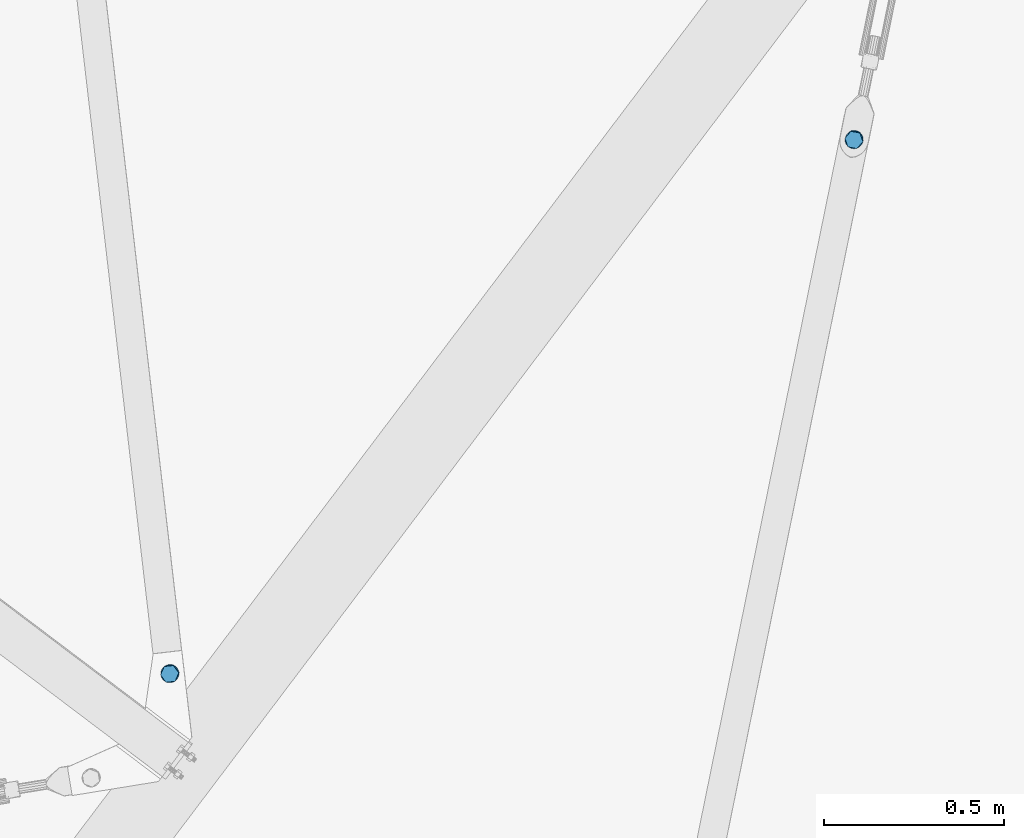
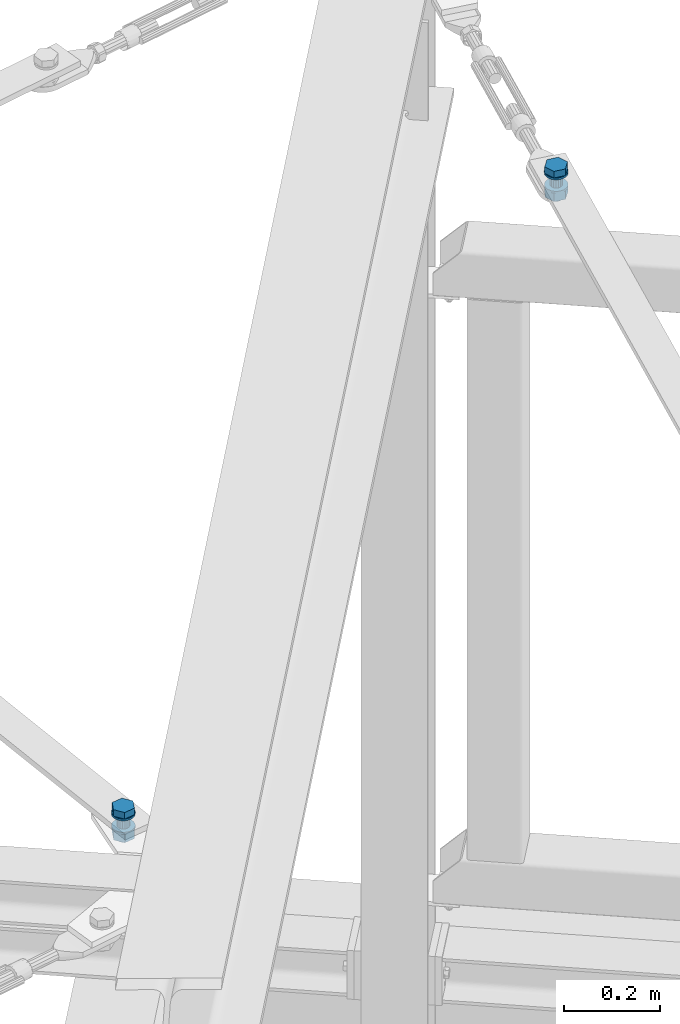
# One storey, part 225 of 476: 2 mechanical fasteners.
"""IFC2X3 building model written with IfcOpenShell, lengths in millimetres."""

from ifc_helpers import new_model, entity, si_unit, converted_unit, origin_with_axes, place, context, project, spatial, faceted_brep, element, save


model = new_model("IFC2X3")

# Units and contexts
model_context = context("Model", 3, precision=1e-09, world=origin_with_axes())
ifc_project = project(units=[si_unit("LENGTHUNIT", "METRE", prefix="MILLI"), si_unit("AREAUNIT", "SQUARE_METRE"), si_unit("VOLUMEUNIT", "CUBIC_METRE"), converted_unit("PLANEANGLEUNIT", "DEGREE", entity("IfcPlaneAngleMeasure", 0.01745329), si_unit("PLANEANGLEUNIT", "RADIAN"), dimensions=[0, 0, 0, 0, 0, 0, 0])], contexts=[model_context])

# Site, building, storey
site_placement = place(None, origin_with_axes())
site = spatial("IfcSite", under=ifc_project, at=site_placement, Name="mKR Teilneubau & Sanierung BA1 - Ostfildern", CompositionType="ELEMENT")
building_placement = place(site_placement, origin_with_axes())
building = spatial("IfcBuilding", under=site, at=building_placement, Name="Struktur 1", CompositionType="ELEMENT")
storey_placement = place(building_placement, origin_with_axes())
storey = spatial("IfcBuildingStorey", under=building, at=storey_placement, Name="Default Storey", CompositionType="ELEMENT", Elevation=0.0)

# Mechanical fasteners
mechanical_fastener_1_placement = place(None, origin_with_axes())
element("IfcMechanicalFastener", 1, at=mechanical_fastener_1_placement, inside=storey, ObjectType="-", NominalDiameter=27.0, NominalLength=70.0, context=model_context, shape_type="Brep", body=[
    faceted_brep([(10982.519814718, 8010.30238381, 5615.049255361), (10982.429310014, 8010.18251923, 5620.04699899), (10977.724341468, 8011.553260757, 5619.99467169), (10977.814846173, 8011.673125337, 5614.996928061), (10973.376830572, 8013.815328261, 5619.970194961), (10973.467335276, 8013.935192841, 5614.972451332), (10969.553849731, 8016.881791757, 5619.97450943), (10969.644354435, 8017.001656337, 5614.976765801), (10966.402313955, 8020.634808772, 5620.007449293), (10966.492818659, 8020.754673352, 5615.009705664), (10964.043334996, 8024.930152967, 5620.067748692), (10964.133839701, 8025.050017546, 5615.070005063), (10962.567567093, 8029.602756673, 5620.153090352), (10962.658071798, 8029.722621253, 5615.155346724), (10962.031723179, 8034.47305435, 5620.260194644), (10962.122227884, 8034.59291893, 5615.262451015), (10962.456395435, 8039.35388319, 5620.384945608), (10962.546900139, 8039.47374777, 5615.387201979), (10963.825263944, 8044.057675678, 5620.522549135), (10963.915768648, 8044.177540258, 5615.524805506), (10966.085723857, 8048.403667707, 5620.667717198), (10966.176228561, 8048.523532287, 5615.669973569), (10969.150906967, 8052.224845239, 5620.814871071), (10969.241411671, 8052.344709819, 5615.817127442), (10972.903020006, 8055.374362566, 5620.958355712), (10972.993524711, 8055.494227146, 5615.960612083), (10977.197871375, 8057.731185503, 5621.092657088), (10977.28837608, 8057.851050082, 5616.094913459), (10981.870412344, 8059.204742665, 5621.212614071), (10981.960917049, 8059.324607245, 5616.214870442), (10986.741079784, 8059.738406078, 5621.313616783), (10986.831584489, 8059.858270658, 5616.315873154), (10991.622696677, 8059.311667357, 5621.391783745), (10991.713201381, 8059.431531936, 5616.394040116), (10996.327665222, 8057.940925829, 5621.444111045), (10996.418169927, 8058.060790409, 5616.446367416), (11000.675176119, 8055.678858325, 5621.468587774), (11000.765680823, 8055.798722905, 5616.470844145), (11004.49815696, 8052.61239483, 5621.464273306), (11004.588661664, 8052.732259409, 5616.466529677), (11007.649692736, 8048.859377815, 5621.431333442), (11007.74019744, 8048.979242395, 5616.433589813), (11010.008671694, 8044.56403362, 5621.371034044), (11010.099176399, 8044.6838982, 5616.373290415), (11011.484439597, 8039.891429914, 5621.285692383), (11011.574944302, 8040.011294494, 5616.287948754), (11012.020283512, 8035.021132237, 5621.178588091), (11012.110788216, 8035.140996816, 5616.180844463), (11011.595611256, 8030.140303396, 5621.053837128), (11011.68611596, 8030.260167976, 5616.056093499), (11010.226742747, 8025.436510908, 5620.916233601), (11010.317247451, 8025.556375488, 5615.918489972), (11007.966282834, 8021.09051888, 5620.771065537), (11008.056787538, 8021.21038346, 5615.773321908), (11004.901099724, 8017.269341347, 5620.623911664), (11004.991604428, 8017.389205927, 5615.626168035), (11001.148986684, 8014.119824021, 5620.480427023), (11001.239491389, 8014.2396886, 5615.482683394), (10996.854135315, 8011.763001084, 5620.346125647), (10996.94464002, 8011.882865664, 5615.348382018), (10992.181594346, 8010.289443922, 5620.226168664), (10992.272099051, 8010.409308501, 5615.228425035), (10987.310926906, 8009.755780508, 5620.125165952), (10987.401431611, 8009.875645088, 5615.127422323)], [[[0, 1, 2, 3]], [[3, 2, 4, 5]], [[5, 4, 6, 7]], [[7, 6, 8, 9]], [[9, 8, 10, 11]], [[11, 10, 12, 13]], [[13, 12, 14, 15]], [[15, 14, 16, 17]], [[17, 16, 18, 19]], [[19, 18, 20, 21]], [[21, 20, 22, 23]], [[23, 22, 24, 25]], [[25, 24, 26, 27]], [[27, 26, 28, 29]], [[29, 28, 30, 31]], [[31, 30, 32, 33]], [[33, 32, 34, 35]], [[35, 34, 36, 37]], [[37, 36, 38, 39]], [[39, 38, 40, 41]], [[41, 40, 42, 43]], [[43, 42, 44, 45]], [[45, 44, 46, 47]], [[47, 46, 48, 49]], [[49, 48, 50, 51]], [[51, 50, 52, 53]], [[53, 52, 54, 55]], [[55, 54, 56, 57]], [[57, 56, 58, 59]], [[59, 58, 60, 61]], [[61, 60, 62, 63]], [[63, 62, 1, 0]], [[2, 1, 62, 60, 58, 56, 54, 52, 50, 48, 46, 44, 42, 40, 38, 36, 34, 32, 30, 28, 26, 24, 22, 20, 18, 16, 14, 12, 10, 8, 6, 4]], [[63, 0, 3, 5, 7, 9, 11, 13, 15, 17, 19, 21, 23, 25, 27, 29, 31, 33, 35, 37, 39, 41, 43, 45, 47, 49, 51, 53, 55, 57, 59, 61]]]),
    faceted_brep([(10978.273169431, 8058.317301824, 5638.133862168), (10978.580885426, 8058.724841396, 5621.14153383), (10962.0387121, 8039.432198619, 5620.37926003), (10961.730996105, 8039.024659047, 5637.371588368), (10970.48383002, 8015.454450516, 5619.957117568), (10970.176114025, 8015.046910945, 5636.949445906), (10995.471121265, 8010.769345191, 5620.297248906), (10995.16340527, 8010.36180562, 5637.289577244), (11012.01329459, 8030.061987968, 5621.059522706), (11011.705578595, 8029.654448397, 5638.051851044), (11003.568176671, 8054.039736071, 5621.481665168), (11003.260460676, 8053.632196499, 5638.473993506)], [[[0, 1, 2, 3]], [[3, 2, 4, 5]], [[5, 4, 6, 7]], [[7, 6, 8, 9]], [[9, 8, 10, 11]], [[11, 10, 1, 0]], [[3, 5, 7, 9, 11, 0]], [[2, 1, 10, 8, 6, 4]]]),
    faceted_brep([(10985.177322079, 8022.321275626, 5585.372082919), (10984.634299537, 8021.602095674, 5615.358230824), (10979.745960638, 8023.563812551, 5615.316756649), (10980.288983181, 8024.282992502, 5585.330608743), (10975.979721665, 8027.246332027, 5615.336873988), (10976.522744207, 8027.965511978, 5585.350726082), (10973.90895836, 8032.089023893, 5615.41552016), (10974.451980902, 8032.808203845, 5585.429372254), (10973.848925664, 8037.354632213, 5615.540721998), (10974.391948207, 8038.073812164, 5585.554574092), (10975.808763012, 8042.241515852, 5615.693418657), (10976.351785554, 8042.960695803, 5585.707270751), (10979.490102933, 8046.005691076, 5615.850363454), (10980.033125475, 8046.724871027, 5585.864215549), (10984.332494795, 8048.074096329, 5615.987662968), (10984.875517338, 8048.79327628, 5586.001515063), (10989.598728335, 8048.131835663, 5616.084414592), (10990.141750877, 8048.851015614, 5586.098266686), (10994.487067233, 8046.170118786, 5616.125888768), (10995.030089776, 8046.889298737, 5586.139740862), (10998.253306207, 8042.48759931, 5616.105771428), (10998.796328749, 8043.206779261, 5586.119623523), (11000.324069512, 8037.644907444, 5616.027125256), (11000.867092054, 8038.364087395, 5586.040977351), (11000.384102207, 8032.379299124, 5615.901923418), (11000.92712475, 8033.098479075, 5585.915775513), (10998.42426486, 8027.492415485, 5615.74922676), (10998.967287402, 8028.211595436, 5585.763078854), (10994.742924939, 8023.728240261, 5615.592281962), (10995.285947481, 8024.447420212, 5585.606134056), (10989.900533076, 8021.659835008, 5615.454982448), (10990.443555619, 8022.379014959, 5585.468834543)], [[[0, 1, 2, 3]], [[3, 2, 4, 5]], [[5, 4, 6, 7]], [[7, 6, 8, 9]], [[9, 8, 10, 11]], [[11, 10, 12, 13]], [[13, 12, 14, 15]], [[15, 14, 16, 17]], [[17, 16, 18, 19]], [[19, 18, 20, 21]], [[21, 20, 22, 23]], [[23, 22, 24, 25]], [[25, 24, 26, 27]], [[27, 26, 28, 29]], [[29, 28, 30, 31]], [[31, 30, 1, 0]], [[2, 1, 30, 28, 26, 24, 22, 20, 18, 16, 14, 12, 10, 8, 6, 4]], [[31, 0, 3, 5, 7, 9, 11, 13, 15, 17, 19, 21, 23, 25, 27, 29]]]),
    faceted_brep([(10983.153347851, 8011.141436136, 5580.065038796), (10983.062843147, 8011.021571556, 5585.062782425), (10978.357874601, 8012.392313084, 5585.010455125), (10978.448379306, 8012.512177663, 5580.012711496), (10974.010363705, 8014.654380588, 5584.985978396), (10974.100868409, 8014.774245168, 5579.988234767), (10970.187382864, 8017.720844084, 5584.990292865), (10970.277887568, 8017.840708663, 5579.992549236), (10967.035847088, 8021.473861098, 5585.023232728), (10967.126351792, 8021.593725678, 5580.025489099), (10964.676868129, 8025.769205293, 5585.083532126), (10964.767372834, 8025.889069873, 5580.085788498), (10963.201100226, 8030.441808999, 5585.168873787), (10963.291604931, 8030.561673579, 5580.171130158), (10962.665256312, 8035.312106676, 5585.275978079), (10962.755761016, 8035.431971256, 5580.27823445), (10963.089928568, 8040.192935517, 5585.400729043), (10963.180433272, 8040.312800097, 5580.402985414), (10964.458797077, 8044.896728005, 5585.538332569), (10964.549301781, 8045.016592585, 5580.54058894), (10966.71925699, 8049.242720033, 5585.683500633), (10966.809761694, 8049.362584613, 5580.685757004), (10969.7844401, 8053.063897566, 5585.830654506), (10969.874944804, 8053.183762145, 5580.832910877), (10973.536553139, 8056.213414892, 5585.974139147), (10973.627057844, 8056.333279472, 5580.976395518), (10977.831404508, 8058.570237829, 5586.108440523), (10977.921909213, 8058.690102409, 5581.110696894), (10982.503945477, 8060.043794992, 5586.228397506), (10982.594450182, 8060.163659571, 5581.230653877), (10987.374612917, 8060.577458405, 5586.329400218), (10987.465117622, 8060.697322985, 5581.331656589), (10992.25622981, 8060.150719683, 5586.40756718), (10992.346734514, 8060.270584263, 5581.409823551), (10996.961198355, 8058.779978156, 5586.45989448), (10997.05170306, 8058.899842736, 5581.462150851), (11001.308709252, 8056.517910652, 5586.484371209), (11001.399213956, 8056.637775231, 5581.48662758), (11005.131690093, 8053.451447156, 5586.480056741), (11005.222194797, 8053.571311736, 5581.482313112), (11008.283225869, 8049.698430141, 5586.447116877), (11008.373730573, 8049.818294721, 5581.449373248), (11010.642204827, 8045.403085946, 5586.386817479), (11010.732709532, 8045.522950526, 5581.38907385), (11012.11797273, 8040.73048224, 5586.301475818), (11012.208477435, 8040.85034682, 5581.303732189), (11012.653816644, 8035.860184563, 5586.194371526), (11012.744321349, 8035.980049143, 5581.196627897), (11012.229144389, 8030.979355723, 5586.069620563), (11012.319649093, 8031.099220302, 5581.071876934), (11010.86027588, 8026.275563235, 5585.932017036), (11010.950780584, 8026.395427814, 5580.934273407), (11008.599815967, 8021.929571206, 5585.786848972), (11008.690320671, 8022.049435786, 5580.789105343), (11005.534632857, 8018.108393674, 5585.639695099), (11005.625137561, 8018.228258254, 5580.64195147), (11001.782519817, 8014.958876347, 5585.496210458), (11001.873024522, 8015.078740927, 5580.498466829), (10997.487668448, 8012.60205341, 5585.361909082), (10997.578173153, 8012.72191799, 5580.364165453), (10992.815127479, 8011.128496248, 5585.241952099), (10992.905632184, 8011.248360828, 5580.24420847), (10987.944460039, 8010.594832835, 5585.140949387), (10988.034964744, 8010.714697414, 5580.143205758)], [[[0, 1, 2, 3]], [[3, 2, 4, 5]], [[5, 4, 6, 7]], [[7, 6, 8, 9]], [[9, 8, 10, 11]], [[11, 10, 12, 13]], [[13, 12, 14, 15]], [[15, 14, 16, 17]], [[17, 16, 18, 19]], [[19, 18, 20, 21]], [[21, 20, 22, 23]], [[23, 22, 24, 25]], [[25, 24, 26, 27]], [[27, 26, 28, 29]], [[29, 28, 30, 31]], [[31, 30, 32, 33]], [[33, 32, 34, 35]], [[35, 34, 36, 37]], [[37, 36, 38, 39]], [[39, 38, 40, 41]], [[41, 40, 42, 43]], [[43, 42, 44, 45]], [[45, 44, 46, 47]], [[47, 46, 48, 49]], [[49, 48, 50, 51]], [[51, 50, 52, 53]], [[53, 52, 54, 55]], [[55, 54, 56, 57]], [[57, 56, 58, 59]], [[59, 58, 60, 61]], [[61, 60, 62, 63]], [[63, 62, 1, 0]], [[2, 1, 62, 60, 58, 56, 54, 52, 50, 48, 46, 44, 42, 40, 38, 36, 34, 32, 30, 28, 26, 24, 22, 20, 18, 16, 14, 12, 10, 8, 6, 4]], [[63, 0, 3, 5, 7, 9, 11, 13, 15, 17, 19, 21, 23, 25, 27, 29, 31, 33, 35, 37, 39, 41, 43, 45, 47, 49, 51, 53, 55, 57, 59, 61]]]),
    faceted_brep([(10979.280011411, 8059.754489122, 5581.160818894), (10979.67823211, 8060.281893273, 5559.170746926), (10963.087261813, 8040.932340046, 5558.406224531), (10962.689041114, 8040.404935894, 5580.396296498), (10971.557291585, 8016.883861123, 5557.982836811), (10971.159070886, 8016.356456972, 5579.972908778), (10996.618291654, 8012.184935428, 5558.323971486), (10996.220070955, 8011.657531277, 5580.314043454), (11013.209261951, 8031.534488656, 5559.088493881), (11012.811041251, 8031.007084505, 5581.078565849), (11004.739232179, 8055.582967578, 5559.511881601), (11004.34101148, 8055.055563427, 5581.501953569)], [[[0, 1, 2, 3]], [[3, 2, 4, 5]], [[5, 4, 6, 7]], [[7, 6, 8, 9]], [[9, 8, 10, 11]], [[11, 10, 1, 0]], [[3, 5, 7, 9, 11, 0]], [[2, 1, 10, 8, 6, 4]]]),
    faceted_brep([(10985.810854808, 8023.160327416, 5550.387888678), (10985.666041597, 8022.968536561, 5558.384592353), (10980.777702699, 8024.930253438, 5558.343118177), (10980.922515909, 8025.122044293, 5550.346414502), (10977.011463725, 8028.612772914, 5558.363235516), (10977.156276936, 8028.804563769, 5550.366531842), (10974.94070042, 8033.45546478, 5558.441881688), (10975.085513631, 8033.647255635, 5550.445178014), (10974.880667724, 8038.7210731, 5558.567083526), (10975.025480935, 8038.912863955, 5550.570379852), (10976.840505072, 8043.607956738, 5558.719780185), (10976.985318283, 8043.799747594, 5550.72307651), (10980.521844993, 8047.372131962, 5558.876724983), (10980.666658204, 8047.563922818, 5550.880021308), (10985.364236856, 8049.440537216, 5559.014024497), (10985.509050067, 8049.632328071, 5551.017320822), (10990.630470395, 8049.498276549, 5559.11077612), (10990.775283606, 8049.690067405, 5551.114072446), (10995.518809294, 8047.536559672, 5559.152250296), (10995.663622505, 8047.728350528, 5551.155546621), (10999.285048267, 8043.854040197, 5559.132132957), (10999.429861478, 8044.045831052, 5551.135429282), (11001.355811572, 8039.01134833, 5559.053486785), (11001.500624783, 8039.203139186, 5551.05678311), (11001.415844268, 8033.745740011, 5558.928284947), (11001.560657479, 8033.937530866, 5550.931581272), (10999.45600692, 8028.858856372, 5558.775588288), (10999.600820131, 8029.050647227, 5550.778884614), (10995.774666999, 8025.094681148, 5558.61864349), (10995.91948021, 8025.286472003, 5550.621939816), (10990.932275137, 8023.026275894, 5558.481343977), (10991.077088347, 8023.21806675, 5550.484640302)], [[[0, 1, 2, 3]], [[3, 2, 4, 5]], [[5, 4, 6, 7]], [[7, 6, 8, 9]], [[9, 8, 10, 11]], [[11, 10, 12, 13]], [[13, 12, 14, 15]], [[15, 14, 16, 17]], [[17, 16, 18, 19]], [[19, 18, 20, 21]], [[21, 20, 22, 23]], [[23, 22, 24, 25]], [[25, 24, 26, 27]], [[27, 26, 28, 29]], [[29, 28, 30, 31]], [[31, 30, 1, 0]], [[2, 1, 30, 28, 26, 24, 22, 20, 18, 16, 14, 12, 10, 8, 6, 4]], [[31, 0, 3, 5, 7, 9, 11, 13, 15, 17, 19, 21, 23, 25, 27, 29]]]),
])
mechanical_fastener_2_placement = place(None, origin_with_axes())
element("IfcMechanicalFastener", 2, at=mechanical_fastener_2_placement, inside=storey, ObjectType="-", NominalDiameter=27.0, NominalLength=70.0, context=model_context, shape_type="Brep", body=[
    faceted_brep([(9083.373498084, 6576.208536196, 5551.204050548), (9083.46398473, 6576.32838902, 5546.20630631), (9078.675592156, 6575.290485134, 5546.094719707), (9078.585105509, 6575.17063231, 5551.092463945), (9074.18212268, 6573.338382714, 5545.966549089), (9074.091636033, 6573.218529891, 5550.964293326), (9070.156257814, 6570.547099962, 5545.826719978), (9070.065771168, 6570.427247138, 5550.824464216), (9066.752709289, 6567.023904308, 5545.68060593), (9066.662222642, 6566.904051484, 5550.678350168), (9064.102273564, 6562.904190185, 5545.533822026), (9064.011786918, 6562.784337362, 5550.531566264), (9062.306805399, 6558.346275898, 5545.392009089), (9062.216318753, 6558.226423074, 5550.389753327), (9061.435303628, 6553.525319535, 5545.26061691), (9061.344816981, 6553.405466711, 5550.258361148), (9061.521259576, 6548.626587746, 5545.144694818), (9061.430772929, 6548.506734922, 5550.142439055), (9062.561370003, 6543.838336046, 5545.048697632), (9062.470883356, 6543.718483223, 5550.04644187), (9064.515664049, 6539.344574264, 5544.976314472), (9064.425177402, 6539.224721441, 5549.97405871), (9067.30903929, 6535.317995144, 5544.930326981), (9067.218552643, 6535.198142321, 5549.928071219), (9070.834147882, 6531.913337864, 5544.912502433), (9070.743661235, 6531.79348504, 5549.910246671), (9074.955521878, 6529.261441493, 5544.923525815), (9074.865035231, 6529.14158867, 5549.921270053), (9079.514779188, 6527.464216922, 5544.962973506), (9079.424292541, 6527.344364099, 5549.960717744), (9084.33671011, 6526.590730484, 5545.029329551), (9084.246223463, 6526.47087766, 5550.027073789), (9089.236010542, 6526.674549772, 5545.120043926), (9089.145523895, 6526.554696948, 5550.117788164), (9094.024403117, 6527.712453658, 5545.231630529), (9093.93391647, 6527.592600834, 5550.229374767), (9098.517872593, 6529.664556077, 5545.359801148), (9098.427385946, 6529.544703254, 5550.357545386), (9102.543737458, 6532.455838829, 5545.499630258), (9102.453250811, 6532.335986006, 5550.497374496), (9105.947285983, 6535.979034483, 5545.645744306), (9105.856799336, 6535.85918166, 5550.643488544), (9108.597721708, 6540.098748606, 5545.79252821), (9108.507235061, 6539.978895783, 5550.790272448), (9110.393189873, 6544.656662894, 5545.934341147), (9110.302703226, 6544.53681007, 5550.932085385), (9111.264691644, 6549.477619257, 5546.065733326), (9111.174204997, 6549.357766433, 5551.063477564), (9111.178735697, 6554.376351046, 5546.181655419), (9111.08824905, 6554.256498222, 5551.179399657), (9110.13862527, 6559.164602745, 5546.277652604), (9110.048138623, 6559.044749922, 5551.275396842), (9108.184331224, 6563.658364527, 5546.350035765), (9108.093844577, 6563.538511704, 5551.347780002), (9105.390955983, 6567.684943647, 5546.396023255), (9105.300469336, 6567.565090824, 5551.393767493), (9101.865847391, 6571.089600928, 5546.413847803), (9101.775360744, 6570.969748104, 5551.411592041), (9097.744473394, 6573.741497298, 5546.402824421), (9097.653986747, 6573.621644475, 5551.400568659), (9093.185216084, 6575.538721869, 5546.363376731), (9093.094729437, 6575.418869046, 5551.361120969), (9088.363285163, 6576.412208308, 5546.297020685), (9088.272798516, 6576.292355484, 5551.294764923)], [[[0, 1, 2, 3]], [[3, 2, 4, 5]], [[5, 4, 6, 7]], [[7, 6, 8, 9]], [[9, 8, 10, 11]], [[11, 10, 12, 13]], [[13, 12, 14, 15]], [[15, 14, 16, 17]], [[17, 16, 18, 19]], [[19, 18, 20, 21]], [[21, 20, 22, 23]], [[23, 22, 24, 25]], [[25, 24, 26, 27]], [[27, 26, 28, 29]], [[29, 28, 30, 31]], [[31, 30, 32, 33]], [[33, 32, 34, 35]], [[35, 34, 36, 37]], [[37, 36, 38, 39]], [[39, 38, 40, 41]], [[41, 40, 42, 43]], [[43, 42, 44, 45]], [[45, 44, 46, 47]], [[47, 46, 48, 49]], [[49, 48, 50, 51]], [[51, 50, 52, 53]], [[53, 52, 54, 55]], [[55, 54, 56, 57]], [[57, 56, 58, 59]], [[59, 58, 60, 61]], [[61, 60, 62, 63]], [[63, 62, 1, 0]], [[0, 3, 5, 7, 9, 11, 13, 15, 17, 19, 21, 23, 25, 27, 29, 31, 33, 35, 37, 39, 41, 43, 45, 47, 49, 51, 53, 55, 57, 59, 61, 63]], [[1, 62, 60, 58, 56, 54, 52, 50, 48, 46, 44, 42, 40, 38, 36, 34, 32, 30, 28, 26, 24, 22, 20, 18, 16, 14, 12, 10, 8, 6, 4, 2]]]),
    faceted_brep([(9076.175947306, 6528.053483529, 5549.918910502), (9075.868292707, 6527.645983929, 5566.911240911), (9060.701029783, 6548.050362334, 5567.125955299), (9061.008684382, 6548.457861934, 5550.13362489), (9070.784593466, 6571.378495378, 5567.867964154), (9071.092248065, 6571.785994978, 5550.875633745), (9096.035420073, 6574.302250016, 5568.395258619), (9096.343074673, 6574.709749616, 5551.40292821), (9111.202682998, 6553.897871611, 5568.180544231), (9111.510337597, 6554.30537121, 5551.188213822), (9101.119119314, 6530.569738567, 5567.438535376), (9101.426773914, 6530.977238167, 5550.446204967)], [[[0, 1, 2, 3]], [[3, 2, 4, 5]], [[5, 4, 6, 7]], [[7, 6, 8, 9]], [[9, 8, 10, 11]], [[11, 10, 1, 0]], [[4, 2, 1, 10, 8, 6]], [[0, 3, 5, 7, 9, 11]]]),
    faceted_brep([(9084.791550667, 6564.908005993, 5545.956465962), (9085.334429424, 6565.627068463, 5515.972271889), (9080.322223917, 6564.012465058, 5515.842802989), (9079.77934516, 6563.293402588, 5545.826997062), (9076.310340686, 6560.602646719, 5515.688393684), (9075.767461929, 6559.883584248, 5545.672587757), (9073.909552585, 6555.916727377, 5515.532551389), (9073.366673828, 6555.197664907, 5545.516745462), (9073.48535784, 6550.668095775, 5515.399001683), (9072.942479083, 6549.949033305, 5545.383195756), (9075.102336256, 6545.655808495, 5515.308076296), (9074.559457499, 6544.936746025, 5545.292270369), (9078.514317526, 6541.642940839, 5515.273617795), (9077.971438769, 6540.923878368, 5545.257811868), (9083.201858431, 6539.24041553, 5515.300872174), (9082.658979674, 6538.52135306, 5545.285066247), (9088.451323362, 6538.813995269, 5515.385690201), (9087.908444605, 6538.094932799, 5545.369884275), (9093.46352887, 6540.428598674, 5515.515159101), (9092.920650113, 6539.709536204, 5545.499353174), (9097.475412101, 6543.838417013, 5515.669568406), (9096.932533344, 6543.119354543, 5545.65376248), (9099.876200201, 6548.524336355, 5515.825410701), (9099.333321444, 6547.805273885, 5545.809604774), (9100.300394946, 6553.772967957, 5515.958960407), (9099.757516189, 6553.053905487, 5545.94315448), (9098.68341653, 6558.785255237, 5516.049885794), (9098.140537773, 6558.066192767, 5546.034079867), (9095.271435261, 6562.798122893, 5516.084344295), (9094.728556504, 6562.079060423, 5546.068538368), (9090.583894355, 6565.200648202, 5516.057089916), (9090.041015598, 6564.481585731, 5546.041283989)], [[[0, 1, 2, 3]], [[3, 2, 4, 5]], [[5, 4, 6, 7]], [[7, 6, 8, 9]], [[9, 8, 10, 11]], [[11, 10, 12, 13]], [[13, 12, 14, 15]], [[15, 14, 16, 17]], [[17, 16, 18, 19]], [[19, 18, 20, 21]], [[21, 20, 22, 23]], [[23, 22, 24, 25]], [[25, 24, 26, 27]], [[27, 26, 28, 29]], [[29, 28, 30, 31]], [[31, 30, 1, 0]], [[0, 3, 5, 7, 9, 11, 13, 15, 17, 19, 21, 23, 25, 27, 29, 31]], [[1, 30, 28, 26, 24, 22, 20, 18, 16, 14, 12, 10, 8, 6, 4, 2]]]),
    faceted_brep([(9084.006863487, 6577.04745149, 5516.222112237), (9084.097350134, 6577.167304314, 5511.224367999), (9079.308957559, 6576.129400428, 5511.112781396), (9079.218470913, 6576.009547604, 5516.110525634), (9074.815488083, 6574.177298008, 5510.984610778), (9074.725001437, 6574.057445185, 5515.982355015), (9070.789623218, 6571.386015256, 5510.844781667), (9070.699136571, 6571.266162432, 5515.842525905), (9067.386074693, 6567.862819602, 5510.698667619), (9067.295588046, 6567.742966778, 5515.696411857), (9064.735638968, 6563.743105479, 5510.551883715), (9064.645152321, 6563.623252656, 5515.549627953), (9062.940170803, 6559.185191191, 5510.410070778), (9062.849684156, 6559.065338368, 5515.407815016), (9062.068669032, 6554.364234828, 5510.278678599), (9061.978182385, 6554.244382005, 5515.276422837), (9062.154624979, 6549.465503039, 5510.162756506), (9062.064138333, 6549.345650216, 5515.160500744), (9063.194735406, 6544.67725134, 5510.066759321), (9063.10424876, 6544.557398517, 5515.064503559), (9065.149029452, 6540.183489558, 5509.994376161), (9065.058542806, 6540.063636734, 5514.992120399), (9067.942404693, 6536.156910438, 5509.94838867), (9067.851918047, 6536.037057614, 5514.946132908), (9071.467513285, 6532.752253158, 5509.930564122), (9071.377026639, 6532.632400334, 5514.92830836), (9075.588887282, 6530.100356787, 5509.941587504), (9075.498400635, 6529.980503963, 5514.939331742), (9080.148144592, 6528.303132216, 5509.981035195), (9080.057657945, 6528.183279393, 5514.978779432), (9084.970075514, 6527.429645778, 5510.04739124), (9084.879588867, 6527.309792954, 5515.045135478), (9089.869375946, 6527.513465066, 5510.138105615), (9089.778889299, 6527.393612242, 5515.135849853), (9094.65776852, 6528.551368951, 5510.249692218), (9094.567281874, 6528.431516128, 5515.247436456), (9099.151237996, 6530.503471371, 5510.377862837), (9099.06075135, 6530.383618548, 5515.375607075), (9103.177102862, 6533.294754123, 5510.517691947), (9103.086616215, 6533.1749013, 5515.515436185), (9106.580651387, 6536.817949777, 5510.663805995), (9106.49016474, 6536.698096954, 5515.661550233), (9109.231087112, 6540.9376639, 5510.810589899), (9109.140600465, 6540.817811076, 5515.808334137), (9111.026555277, 6545.495578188, 5510.952402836), (9110.93606863, 6545.375725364, 5515.950147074), (9111.898057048, 6550.316534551, 5511.083795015), (9111.807570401, 6550.196681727, 5516.081539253), (9111.8121011, 6555.21526634, 5511.199717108), (9111.721614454, 6555.095413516, 5516.197461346), (9110.771990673, 6560.003518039, 5511.295714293), (9110.681504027, 6559.883665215, 5516.293458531), (9108.817696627, 6564.497279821, 5511.368097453), (9108.727209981, 6564.377426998, 5516.365841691), (9106.024321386, 6568.523858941, 5511.414084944), (9105.93383474, 6568.404006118, 5516.411829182), (9102.499212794, 6571.928516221, 5511.431909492), (9102.408726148, 6571.808663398, 5516.42965373), (9098.377838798, 6574.580412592, 5511.42088611), (9098.287352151, 6574.460559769, 5516.418630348), (9093.818581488, 6576.377637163, 5511.38143842), (9093.728094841, 6576.257784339, 5516.379182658), (9088.996650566, 6577.251123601, 5511.315082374), (9088.906163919, 6577.131270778, 5516.312826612)], [[[0, 1, 2, 3]], [[3, 2, 4, 5]], [[5, 4, 6, 7]], [[7, 6, 8, 9]], [[9, 8, 10, 11]], [[11, 10, 12, 13]], [[13, 12, 14, 15]], [[15, 14, 16, 17]], [[17, 16, 18, 19]], [[19, 18, 20, 21]], [[21, 20, 22, 23]], [[23, 22, 24, 25]], [[25, 24, 26, 27]], [[27, 26, 28, 29]], [[29, 28, 30, 31]], [[31, 30, 32, 33]], [[33, 32, 34, 35]], [[35, 34, 36, 37]], [[37, 36, 38, 39]], [[39, 38, 40, 41]], [[41, 40, 42, 43]], [[43, 42, 44, 45]], [[45, 44, 46, 47]], [[47, 46, 48, 49]], [[49, 48, 50, 51]], [[51, 50, 52, 53]], [[53, 52, 54, 55]], [[55, 54, 56, 57]], [[57, 56, 58, 59]], [[59, 58, 60, 61]], [[61, 60, 62, 63]], [[63, 62, 1, 0]], [[0, 3, 5, 7, 9, 11, 13, 15, 17, 19, 21, 23, 25, 27, 29, 31, 33, 35, 37, 39, 41, 43, 45, 47, 49, 51, 53, 55, 57, 59, 61, 63]], [[1, 62, 60, 58, 56, 54, 52, 50, 48, 46, 44, 42, 40, 38, 36, 34, 32, 30, 28, 26, 24, 22, 20, 18, 16, 14, 12, 10, 8, 6, 4, 2]]]),
    faceted_brep([(9077.268195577, 6529.470789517, 5487.946964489), (9076.870054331, 6528.943437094, 5509.937039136), (9061.658050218, 6549.408005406, 5510.1523869), (9062.056191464, 6549.93535783, 5488.162312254), (9071.771358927, 6572.804953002, 5510.896584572), (9072.169500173, 6573.332305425, 5488.906509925), (9097.096671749, 6575.737332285, 5511.425434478), (9097.494812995, 6576.264684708, 5489.435359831), (9112.308675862, 6555.272763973, 5511.210086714), (9112.706817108, 6555.800116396, 5489.220012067), (9102.195367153, 6531.875816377, 5510.465889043), (9102.593508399, 6532.4031688, 5488.475814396)], [[[0, 1, 2, 3]], [[3, 2, 4, 5]], [[5, 4, 6, 7]], [[7, 6, 8, 9]], [[9, 8, 10, 11]], [[11, 10, 1, 0]], [[4, 2, 1, 10, 8, 6]], [[0, 3, 5, 7, 9, 11]]]),
    faceted_brep([(9085.823057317, 6566.27427371, 5488.984453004), (9085.967877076, 6566.466092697, 5480.985790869), (9080.955671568, 6564.851489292, 5480.856321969), (9080.810851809, 6564.659670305, 5488.854984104), (9076.943788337, 6561.441670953, 5480.701912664), (9076.798968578, 6561.249851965, 5488.700574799), (9074.543000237, 6556.755751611, 5480.54607037), (9074.398180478, 6556.563932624, 5488.544732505), (9074.118805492, 6551.507120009, 5480.412520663), (9073.973985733, 6551.315301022, 5488.411182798), (9075.735783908, 6546.494832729, 5480.321595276), (9075.590964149, 6546.303013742, 5488.320257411), (9079.147765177, 6542.481965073, 5480.287136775), (9079.002945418, 6542.290146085, 5488.28579891), (9083.835306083, 6540.079439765, 5480.314391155), (9083.690486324, 6539.887620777, 5488.31305329), (9089.084771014, 6539.653019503, 5480.399209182), (9088.939951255, 6539.461200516, 5488.397871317), (9094.096976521, 6541.267622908, 5480.528678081), (9093.952156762, 6541.075803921, 5488.527340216), (9098.108859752, 6544.677441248, 5480.683087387), (9097.964039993, 6544.48562226, 5488.681749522), (9100.509647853, 6549.363360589, 5480.838929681), (9100.364828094, 6549.171541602, 5488.837591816), (9100.933842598, 6554.611992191, 5480.972479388), (9100.789022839, 6554.420173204, 5488.971141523), (9099.316864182, 6559.624279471, 5481.063404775), (9099.172044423, 6559.432460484, 5489.062066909), (9095.904882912, 6563.637147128, 5481.097863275), (9095.760063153, 6563.44532814, 5489.09652541), (9091.217342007, 6566.039672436, 5481.070608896), (9091.072522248, 6565.847853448, 5489.069271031)], [[[0, 1, 2, 3]], [[3, 2, 4, 5]], [[5, 4, 6, 7]], [[7, 6, 8, 9]], [[9, 8, 10, 11]], [[11, 10, 12, 13]], [[13, 12, 14, 15]], [[15, 14, 16, 17]], [[17, 16, 18, 19]], [[19, 18, 20, 21]], [[21, 20, 22, 23]], [[23, 22, 24, 25]], [[25, 24, 26, 27]], [[27, 26, 28, 29]], [[29, 28, 30, 31]], [[31, 30, 1, 0]], [[0, 3, 5, 7, 9, 11, 13, 15, 17, 19, 21, 23, 25, 27, 29, 31]], [[1, 30, 28, 26, 24, 22, 20, 18, 16, 14, 12, 10, 8, 6, 4, 2]]]),
])

save(model, "model.ifc")
